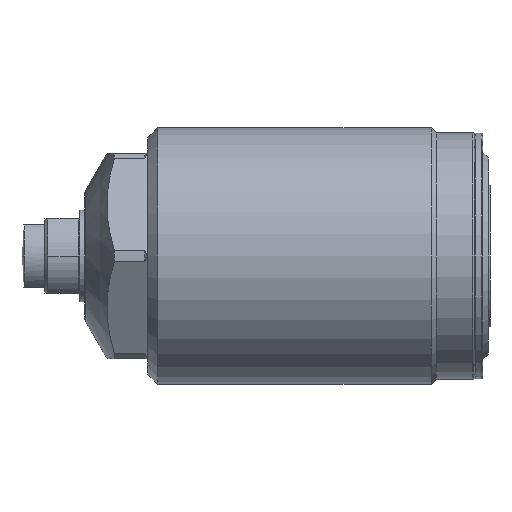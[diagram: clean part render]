
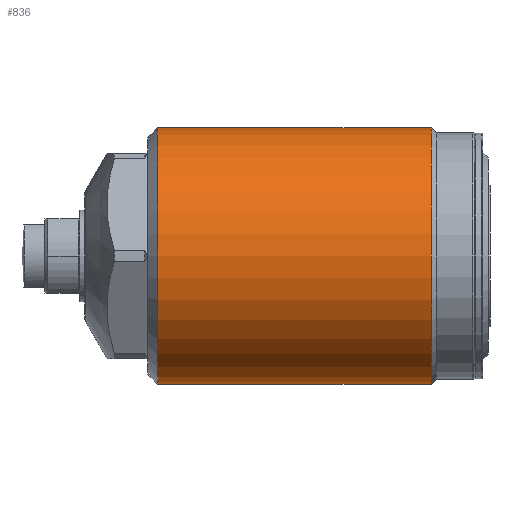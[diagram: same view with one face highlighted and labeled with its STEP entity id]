
A CAD part, left-side view. The second image highlights one B-rep face of the part: STEP entity #836.
In plain terms, the highlighted cylindrical face has radius 22.5 mm (diameter 45 mm), a partial arc.
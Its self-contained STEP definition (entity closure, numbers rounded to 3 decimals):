
#596=CYLINDRICAL_SURFACE('',#2345,22.5);
#651=LINE('',#3352,#729);
#652=LINE('',#3353,#730);
#729=VECTOR('',#2792,1.);
#730=VECTOR('',#2793,1.);
#836=ADVANCED_FACE('',(#940),#596,.T.);
#940=FACE_OUTER_BOUND('',#1051,.T.);
#1051=EDGE_LOOP('',(#1473,#1474,#1475,#1476));
#1473=ORIENTED_EDGE('',*,*,#1904,.T.);
#1474=ORIENTED_EDGE('',*,*,#1967,.T.);
#1475=ORIENTED_EDGE('',*,*,#1905,.F.);
#1476=ORIENTED_EDGE('',*,*,#1968,.T.);
#1688=VERTEX_POINT('',#3332);
#1689=VERTEX_POINT('',#3334);
#1694=VERTEX_POINT('',#3350);
#1695=VERTEX_POINT('',#3351);
#1904=EDGE_CURVE('',#1689,#1695,#651,.T.);
#1905=EDGE_CURVE('',#1688,#1694,#652,.T.);
#1967=EDGE_CURVE('',#1695,#1694,#2117,.T.);
#1968=EDGE_CURVE('',#1688,#1689,#2118,.T.);
#2117=CIRCLE('',#2342,22.5);
#2118=CIRCLE('',#2344,22.5);
#2342=AXIS2_PLACEMENT_3D('',#3535,#2882,#2883);
#2344=AXIS2_PLACEMENT_3D('',#3537,#2886,#2887);
#2345=AXIS2_PLACEMENT_3D('',#3538,#2888,#2889);
#2792=DIRECTION('',(0.,1.,0.));
#2793=DIRECTION('',(0.,1.,0.));
#2882=DIRECTION('',(0.,-1.,0.));
#2883=DIRECTION('',(0.,0.,1.));
#2886=DIRECTION('',(0.,1.,0.));
#2887=DIRECTION('',(0.,0.,-1.));
#2888=DIRECTION('',(0.,-1.,0.));
#2889=DIRECTION('',(0.,0.,1.));
#3332=CARTESIAN_POINT('',(0.,7.5,-22.5));
#3334=CARTESIAN_POINT('',(0.,7.5,22.5));
#3350=CARTESIAN_POINT('',(0.,55.45,-22.5));
#3351=CARTESIAN_POINT('',(0.,55.45,22.5));
#3352=CARTESIAN_POINT('',(0.,68.2,22.5));
#3353=CARTESIAN_POINT('',(0.,68.2,-22.5));
#3535=CARTESIAN_POINT('',(0.,55.45,0.));
#3537=CARTESIAN_POINT('',(0.,7.5,0.));
#3538=CARTESIAN_POINT('',(0.,68.2,0.));
